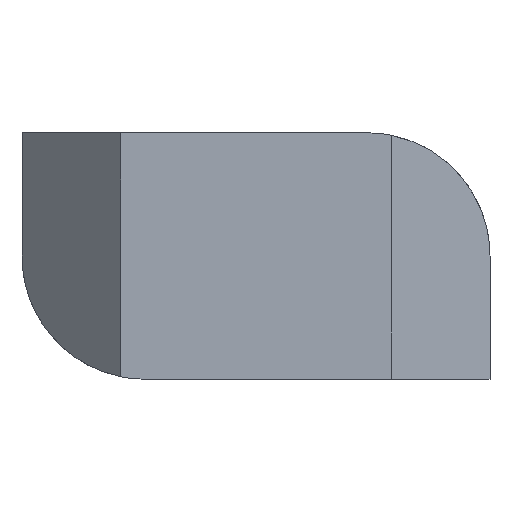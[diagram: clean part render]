
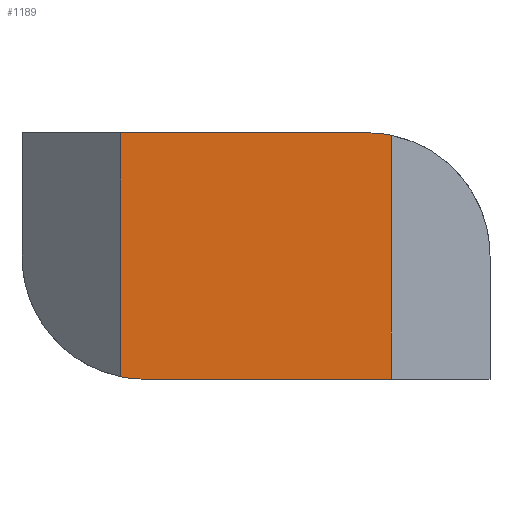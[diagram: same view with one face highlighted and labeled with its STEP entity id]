
A CAD part, front view. The second image highlights one B-rep face of the part: STEP entity #1189.
In plain terms, the highlighted planar face has unit normal (0, -1, 0).
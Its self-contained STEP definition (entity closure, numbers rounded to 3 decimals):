
#26=PLANE('',#1289);
#104=FACE_OUTER_BOUND('',#171,.T.);
#171=EDGE_LOOP('',(#903,#904,#905,#906,#907,#908));
#223=CIRCLE('',#1284,5.);
#224=CIRCLE('',#1290,5.);
#317=LINE('',#3032,#423);
#318=LINE('',#3036,#424);
#319=LINE('',#3038,#425);
#320=LINE('',#3039,#426);
#423=VECTOR('',#1471,1000.);
#424=VECTOR('',#1474,1000.);
#425=VECTOR('',#1477,1000.);
#426=VECTOR('',#1478,1000.);
#536=VERTEX_POINT('',#2978);
#537=VERTEX_POINT('',#2980);
#556=VERTEX_POINT('',#3022);
#559=VERTEX_POINT('',#3030);
#560=VERTEX_POINT('',#3034);
#561=VERTEX_POINT('',#3035);
#673=EDGE_CURVE('',#536,#537,#223,.T.);
#699=EDGE_CURVE('',#556,#559,#317,.T.);
#700=EDGE_CURVE('',#560,#561,#318,.T.);
#701=EDGE_CURVE('',#561,#556,#224,.T.);
#702=EDGE_CURVE('',#537,#559,#319,.T.);
#703=EDGE_CURVE('',#560,#536,#320,.T.);
#903=ORIENTED_EDGE('',*,*,#700,.T.);
#904=ORIENTED_EDGE('',*,*,#701,.T.);
#905=ORIENTED_EDGE('',*,*,#699,.T.);
#906=ORIENTED_EDGE('',*,*,#702,.F.);
#907=ORIENTED_EDGE('',*,*,#673,.F.);
#908=ORIENTED_EDGE('',*,*,#703,.F.);
#1189=ADVANCED_FACE('',(#104),#26,.F.);
#1284=AXIS2_PLACEMENT_3D('',#2981,#1437,#1438);
#1289=AXIS2_PLACEMENT_3D('',#3033,#1472,#1473);
#1290=AXIS2_PLACEMENT_3D('',#3037,#1475,#1476);
#1437=DIRECTION('center_axis',(0.,1.,0.));
#1438=DIRECTION('ref_axis',(-1.,0.,0.));
#1471=DIRECTION('',(1.,0.,0.));
#1472=DIRECTION('center_axis',(0.,1.,0.));
#1473=DIRECTION('ref_axis',(-1.,0.,0.));
#1474=DIRECTION('',(0.,0.,-1.));
#1475=DIRECTION('center_axis',(0.,-1.,0.));
#1476=DIRECTION('ref_axis',(-1.,0.,0.));
#1477=DIRECTION('',(0.,0.,-1.));
#1478=DIRECTION('',(1.,0.,0.));
#2978=CARTESIAN_POINT('',(14.,-6.,10.));
#2980=CARTESIAN_POINT('',(15.,-6.,9.899));
#2981=CARTESIAN_POINT('Origin',(14.,-6.,5.));
#3022=CARTESIAN_POINT('',(5.,-6.,0.));
#3030=CARTESIAN_POINT('',(15.,-6.,0.));
#3032=CARTESIAN_POINT('',(15.,-6.,0.));
#3033=CARTESIAN_POINT('Origin',(15.,-6.,10.));
#3034=CARTESIAN_POINT('',(4.,-6.,10.));
#3035=CARTESIAN_POINT('',(4.,-6.,0.101));
#3036=CARTESIAN_POINT('',(4.,-6.,10.));
#3037=CARTESIAN_POINT('Origin',(5.,-6.,5.));
#3038=CARTESIAN_POINT('',(15.,-6.,10.));
#3039=CARTESIAN_POINT('',(15.,-6.,10.));
